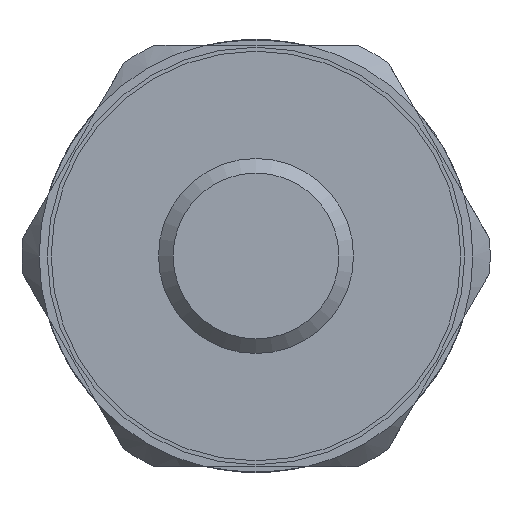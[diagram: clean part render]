
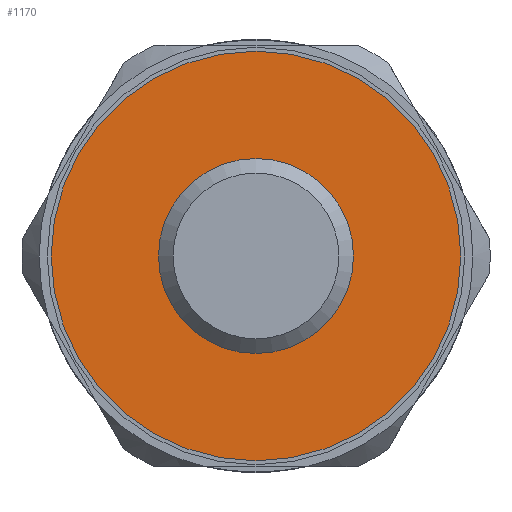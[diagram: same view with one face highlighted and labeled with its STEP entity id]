
A CAD part, left-side view. The second image highlights one B-rep face of the part: STEP entity #1170.
In plain terms, the highlighted planar face has unit normal (-1, 0, 0).
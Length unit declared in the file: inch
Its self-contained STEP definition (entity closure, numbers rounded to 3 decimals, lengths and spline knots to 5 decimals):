
#64=FACE_BOUND('',#200,.T.);
#90=PLANE('',#1291);
#133=FACE_OUTER_BOUND('',#199,.T.);
#199=EDGE_LOOP('',(#887,#888));
#200=EDGE_LOOP('',(#889,#890));
#342=CIRCLE('',#1236,0.14764);
#343=CIRCLE('',#1237,0.14764);
#372=CIRCLE('',#1292,0.41339);
#373=CIRCLE('',#1293,0.41339);
#442=VERTEX_POINT('',#1777);
#443=VERTEX_POINT('',#1778);
#496=VERTEX_POINT('',#1986);
#497=VERTEX_POINT('',#1987);
#564=EDGE_CURVE('',#442,#443,#342,.T.);
#565=EDGE_CURVE('',#443,#442,#343,.T.);
#645=EDGE_CURVE('',#496,#497,#372,.T.);
#646=EDGE_CURVE('',#497,#496,#373,.T.);
#887=ORIENTED_EDGE('',*,*,#645,.T.);
#888=ORIENTED_EDGE('',*,*,#646,.T.);
#889=ORIENTED_EDGE('',*,*,#564,.T.);
#890=ORIENTED_EDGE('',*,*,#565,.T.);
#1170=ADVANCED_FACE('',(#133,#64),#90,.T.);
#1236=AXIS2_PLACEMENT_3D('',#1779,#1409,#1410);
#1237=AXIS2_PLACEMENT_3D('',#1780,#1411,#1412);
#1291=AXIS2_PLACEMENT_3D('',#1985,#1546,#1547);
#1292=AXIS2_PLACEMENT_3D('',#1988,#1548,#1549);
#1293=AXIS2_PLACEMENT_3D('',#1989,#1550,#1551);
#1409=DIRECTION('center_axis',(1.,0.,0.));
#1410=DIRECTION('ref_axis',(0.,0.866,-0.5));
#1411=DIRECTION('center_axis',(1.,0.,0.));
#1412=DIRECTION('ref_axis',(0.,0.866,-0.5));
#1546=DIRECTION('center_axis',(-1.,0.,0.));
#1547=DIRECTION('ref_axis',(0.,0.866,-0.5));
#1548=DIRECTION('center_axis',(-1.,0.,0.));
#1549=DIRECTION('ref_axis',(0.,0.866,-0.5));
#1550=DIRECTION('center_axis',(-1.,0.,0.));
#1551=DIRECTION('ref_axis',(0.,0.866,-0.5));
#1777=CARTESIAN_POINT('',(-2.25408,0.22916,-0.41816));
#1778=CARTESIAN_POINT('',(-2.25408,-0.02656,-0.27052));
#1779=CARTESIAN_POINT('Origin',(-2.25408,0.1013,-0.34434));
#1780=CARTESIAN_POINT('Origin',(-2.25408,0.1013,-0.34434));
#1985=CARTESIAN_POINT('Origin',(-2.25408,0.1013,-0.34434));
#1986=CARTESIAN_POINT('',(-2.25408,0.4593,-0.55103));
#1987=CARTESIAN_POINT('',(-2.25408,-0.2567,-0.13765));
#1988=CARTESIAN_POINT('Origin',(-2.25408,0.1013,-0.34434));
#1989=CARTESIAN_POINT('Origin',(-2.25408,0.1013,-0.34434));
